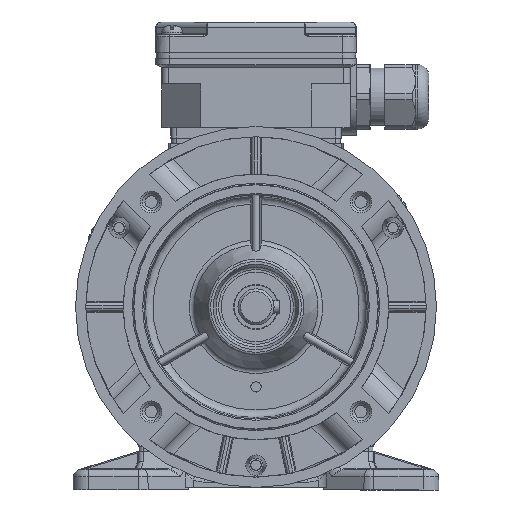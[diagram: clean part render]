
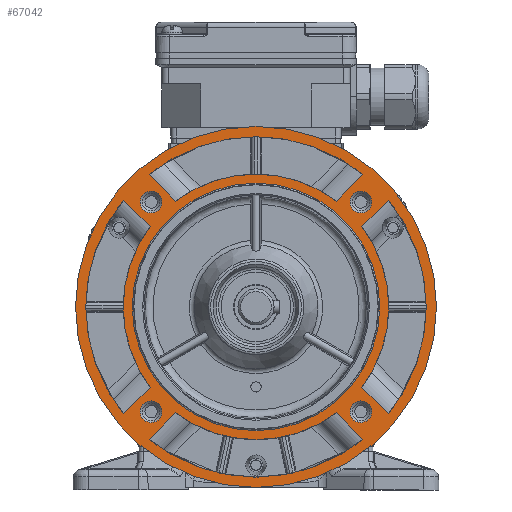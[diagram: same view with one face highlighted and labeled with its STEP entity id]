
A CAD part, front view. The second image highlights one B-rep face of the part: STEP entity #67042.
In plain terms, the highlighted planar face has unit normal (0, -1, 0).
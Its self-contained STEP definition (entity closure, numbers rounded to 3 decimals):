
#2346=LINE('',#101874,#5427);
#2347=LINE('',#101884,#5428);
#2348=LINE('',#101900,#5429);
#2349=LINE('',#101916,#5430);
#2350=LINE('',#101938,#5431);
#2351=LINE('',#101948,#5432);
#2352=LINE('',#101956,#5433);
#2353=LINE('',#101978,#5434);
#5427=VECTOR('',#80621,1000.);
#5428=VECTOR('',#80628,1000.);
#5429=VECTOR('',#80635,1000.);
#5430=VECTOR('',#80642,1000.);
#5431=VECTOR('',#80649,1000.);
#5432=VECTOR('',#80656,1000.);
#5433=VECTOR('',#80659,1000.);
#5434=VECTOR('',#80666,1000.);
#18819=ORIENTED_EDGE('',*,*,#28680,.T.);
#18820=ORIENTED_EDGE('',*,*,#28679,.T.);
#18821=ORIENTED_EDGE('',*,*,#28678,.T.);
#18822=ORIENTED_EDGE('',*,*,#28677,.T.);
#18823=ORIENTED_EDGE('',*,*,#28676,.F.);
#18824=ORIENTED_EDGE('',*,*,#28675,.F.);
#18825=ORIENTED_EDGE('',*,*,#28672,.T.);
#18826=ORIENTED_EDGE('',*,*,#28670,.T.);
#18827=ORIENTED_EDGE('',*,*,#28668,.T.);
#18828=ORIENTED_EDGE('',*,*,#28666,.F.);
#18829=ORIENTED_EDGE('',*,*,#28665,.F.);
#18830=ORIENTED_EDGE('',*,*,#28662,.T.);
#18831=ORIENTED_EDGE('',*,*,#28660,.T.);
#18832=ORIENTED_EDGE('',*,*,#28658,.F.);
#18833=ORIENTED_EDGE('',*,*,#28656,.F.);
#18834=ORIENTED_EDGE('',*,*,#28654,.T.);
#18835=ORIENTED_EDGE('',*,*,#28652,.T.);
#18836=ORIENTED_EDGE('',*,*,#28650,.F.);
#18837=ORIENTED_EDGE('',*,*,#28649,.F.);
#18838=ORIENTED_EDGE('',*,*,#28646,.T.);
#18839=ORIENTED_EDGE('',*,*,#28644,.T.);
#18840=ORIENTED_EDGE('',*,*,#28804,.T.);
#28644=EDGE_CURVE('',#34362,#34362,#37491,.F.);
#28646=EDGE_CURVE('',#34364,#34363,#37492,.T.);
#28649=EDGE_CURVE('',#34364,#34365,#2346,.T.);
#28650=EDGE_CURVE('',#34365,#34366,#37493,.T.);
#28652=EDGE_CURVE('',#34363,#34366,#2347,.T.);
#28654=EDGE_CURVE('',#34368,#34367,#37494,.T.);
#28656=EDGE_CURVE('',#34368,#34369,#2348,.T.);
#28658=EDGE_CURVE('',#34369,#34370,#37495,.T.);
#28660=EDGE_CURVE('',#34367,#34370,#2349,.T.);
#28662=EDGE_CURVE('',#34372,#34371,#37496,.T.);
#28665=EDGE_CURVE('',#34372,#34373,#2350,.T.);
#28666=EDGE_CURVE('',#34373,#34374,#37497,.T.);
#28668=EDGE_CURVE('',#34371,#34374,#2351,.T.);
#28670=EDGE_CURVE('',#34376,#34375,#2352,.T.);
#28672=EDGE_CURVE('',#34377,#34376,#37498,.T.);
#28675=EDGE_CURVE('',#34377,#34378,#2353,.T.);
#28676=EDGE_CURVE('',#34378,#34375,#37499,.T.);
#28677=EDGE_CURVE('',#34379,#34379,#37500,.F.);
#28678=EDGE_CURVE('',#34380,#34380,#37501,.F.);
#28679=EDGE_CURVE('',#34381,#34381,#37502,.F.);
#28680=EDGE_CURVE('',#34382,#34382,#37503,.F.);
#28804=EDGE_CURVE('',#34454,#34454,#37549,.T.);
#34362=VERTEX_POINT('',#101852);
#34363=VERTEX_POINT('',#101859);
#34364=VERTEX_POINT('',#101861);
#34365=VERTEX_POINT('',#101873);
#34366=VERTEX_POINT('',#101877);
#34367=VERTEX_POINT('',#101891);
#34368=VERTEX_POINT('',#101893);
#34369=VERTEX_POINT('',#101901);
#34370=VERTEX_POINT('',#101909);
#34371=VERTEX_POINT('',#101923);
#34372=VERTEX_POINT('',#101925);
#34373=VERTEX_POINT('',#101937);
#34374=VERTEX_POINT('',#101941);
#34375=VERTEX_POINT('',#101955);
#34376=VERTEX_POINT('',#101957);
#34377=VERTEX_POINT('',#101965);
#34378=VERTEX_POINT('',#101977);
#34379=VERTEX_POINT('',#101983);
#34380=VERTEX_POINT('',#101986);
#34381=VERTEX_POINT('',#101989);
#34382=VERTEX_POINT('',#101992);
#34454=VERTEX_POINT('',#102661);
#37491=CIRCLE('',#71013,48.);
#37492=CIRCLE('',#71015,51.5);
#37493=CIRCLE('',#71018,66.);
#37494=CIRCLE('',#71021,51.5);
#37495=CIRCLE('',#71024,66.);
#37496=CIRCLE('',#71027,51.5);
#37497=CIRCLE('',#71030,66.);
#37498=CIRCLE('',#71034,51.5);
#37499=CIRCLE('',#71037,66.);
#37500=CIRCLE('',#71039,4.2);
#37501=CIRCLE('',#71041,4.2);
#37502=CIRCLE('',#71043,4.2);
#37503=CIRCLE('',#71045,4.2);
#37549=CIRCLE('',#71144,70.);
#40288=EDGE_LOOP('',(#18819));
#40289=EDGE_LOOP('',(#18820));
#40290=EDGE_LOOP('',(#18821));
#40291=EDGE_LOOP('',(#18822));
#40292=EDGE_LOOP('',(#18823,#18824,#18825,#18826));
#40293=EDGE_LOOP('',(#18827,#18828,#18829,#18830));
#40294=EDGE_LOOP('',(#18831,#18832,#18833,#18834));
#40295=EDGE_LOOP('',(#18835,#18836,#18837,#18838));
#40296=EDGE_LOOP('',(#18839));
#40297=EDGE_LOOP('',(#18840));
#43518=FACE_BOUND('',#40288,.T.);
#43519=FACE_BOUND('',#40289,.T.);
#43520=FACE_BOUND('',#40290,.T.);
#43521=FACE_BOUND('',#40291,.T.);
#43522=FACE_BOUND('',#40292,.T.);
#43523=FACE_BOUND('',#40293,.T.);
#43524=FACE_BOUND('',#40294,.T.);
#43525=FACE_BOUND('',#40295,.T.);
#43526=FACE_BOUND('',#40296,.T.);
#43527=FACE_BOUND('',#40297,.T.);
#45373=PLANE('',#71143);
#67042=ADVANCED_FACE('',(#43518,#43519,#43520,#43521,#43522,#43523,#43524,
#43525,#43526,#43527),#45373,.T.);
#71013=AXIS2_PLACEMENT_3D('',#101851,#80613,#80614);
#71015=AXIS2_PLACEMENT_3D('',#101860,#80617,#80618);
#71018=AXIS2_PLACEMENT_3D('',#101876,#80624,#80625);
#71021=AXIS2_PLACEMENT_3D('',#101892,#80631,#80632);
#71024=AXIS2_PLACEMENT_3D('',#101908,#80638,#80639);
#71027=AXIS2_PLACEMENT_3D('',#101924,#80645,#80646);
#71030=AXIS2_PLACEMENT_3D('',#101940,#80652,#80653);
#71034=AXIS2_PLACEMENT_3D('',#101964,#80662,#80663);
#71037=AXIS2_PLACEMENT_3D('',#101980,#80669,#80670);
#71039=AXIS2_PLACEMENT_3D('',#101982,#80673,#80674);
#71041=AXIS2_PLACEMENT_3D('',#101985,#80677,#80678);
#71043=AXIS2_PLACEMENT_3D('',#101988,#80681,#80682);
#71045=AXIS2_PLACEMENT_3D('',#101991,#80685,#80686);
#71143=AXIS2_PLACEMENT_3D('',#102659,#80901,#80902);
#71144=AXIS2_PLACEMENT_3D('',#102660,#80903,#80904);
#80613=DIRECTION('',(0.,-1.,0.));
#80614=DIRECTION('',(0.,0.,1.));
#80617=DIRECTION('',(0.,-1.,0.));
#80618=DIRECTION('',(0.,0.,1.));
#80621=DIRECTION('',(0.707,0.,0.707));
#80624=DIRECTION('',(0.,-1.,0.));
#80625=DIRECTION('',(0.,0.,1.));
#80628=DIRECTION('',(-0.707,0.,0.707));
#80631=DIRECTION('',(0.,-1.,0.));
#80632=DIRECTION('',(0.,0.,1.));
#80635=DIRECTION('',(-0.707,0.,0.707));
#80638=DIRECTION('',(0.,-1.,0.));
#80639=DIRECTION('',(0.,0.,1.));
#80642=DIRECTION('',(-0.707,0.,-0.707));
#80645=DIRECTION('',(0.,-1.,0.));
#80646=DIRECTION('',(0.,0.,1.));
#80649=DIRECTION('',(-0.707,0.,-0.707));
#80652=DIRECTION('',(0.,-1.,0.));
#80653=DIRECTION('',(0.,0.,1.));
#80656=DIRECTION('',(0.707,0.,-0.707));
#80659=DIRECTION('',(0.707,0.,0.707));
#80662=DIRECTION('',(0.,-1.,0.));
#80663=DIRECTION('',(0.,0.,1.));
#80666=DIRECTION('',(0.707,0.,-0.707));
#80669=DIRECTION('',(0.,-1.,0.));
#80670=DIRECTION('',(0.,0.,1.));
#80673=DIRECTION('',(0.,-1.,0.));
#80674=DIRECTION('',(0.,0.,1.));
#80677=DIRECTION('',(0.,-1.,0.));
#80678=DIRECTION('',(0.,0.,1.));
#80681=DIRECTION('',(0.,-1.,0.));
#80682=DIRECTION('',(0.,0.,1.));
#80685=DIRECTION('',(0.,-1.,0.));
#80686=DIRECTION('',(0.,0.,1.));
#80901=DIRECTION('',(0.,-1.,0.));
#80902=DIRECTION('',(0.,0.,1.));
#80903=DIRECTION('',(0.,-1.,0.));
#80904=DIRECTION('',(0.,0.,1.));
#101851=CARTESIAN_POINT('',(0.,-90.,0.));
#101852=CARTESIAN_POINT('',(0.,-90.,48.));
#101859=CARTESIAN_POINT('',(-31.128,-90.,41.028));
#101860=CARTESIAN_POINT('',(0.,-90.,0.));
#101861=CARTESIAN_POINT('',(31.128,-90.,41.028));
#101873=CARTESIAN_POINT('',(41.456,-90.,51.356));
#101874=CARTESIAN_POINT('',(29.217,-90.,39.116));
#101876=CARTESIAN_POINT('',(0.,-90.,0.));
#101877=CARTESIAN_POINT('',(-41.456,-90.,51.356));
#101884=CARTESIAN_POINT('',(-29.217,-90.,39.116));
#101891=CARTESIAN_POINT('',(-41.028,-90.,-31.128));
#101892=CARTESIAN_POINT('',(0.,-90.,0.));
#101893=CARTESIAN_POINT('',(-41.028,-90.,31.128));
#101900=CARTESIAN_POINT('',(-39.116,-90.,29.217));
#101901=CARTESIAN_POINT('',(-51.356,-90.,41.456));
#101908=CARTESIAN_POINT('',(0.,-90.,0.));
#101909=CARTESIAN_POINT('',(-51.356,-90.,-41.456));
#101916=CARTESIAN_POINT('',(-39.116,-90.,-29.217));
#101923=CARTESIAN_POINT('',(31.128,-90.,-41.028));
#101924=CARTESIAN_POINT('',(0.,-90.,0.));
#101925=CARTESIAN_POINT('',(-31.128,-90.,-41.028));
#101937=CARTESIAN_POINT('',(-41.456,-90.,-51.356));
#101938=CARTESIAN_POINT('',(-29.217,-90.,-39.116));
#101940=CARTESIAN_POINT('',(0.,-90.,0.));
#101941=CARTESIAN_POINT('',(41.456,-90.,-51.356));
#101948=CARTESIAN_POINT('',(29.217,-90.,-39.116));
#101955=CARTESIAN_POINT('',(51.356,-90.,41.456));
#101956=CARTESIAN_POINT('',(39.116,-90.,29.217));
#101957=CARTESIAN_POINT('',(41.028,-90.,31.128));
#101964=CARTESIAN_POINT('',(0.,-90.,0.));
#101965=CARTESIAN_POINT('',(41.028,-90.,-31.128));
#101977=CARTESIAN_POINT('',(51.356,-90.,-41.456));
#101978=CARTESIAN_POINT('',(39.116,-90.,-29.217));
#101980=CARTESIAN_POINT('',(0.,-90.,0.));
#101982=CARTESIAN_POINT('',(-40.659,-90.,40.659));
#101983=CARTESIAN_POINT('',(-40.659,-90.,44.859));
#101985=CARTESIAN_POINT('',(40.659,-90.,40.659));
#101986=CARTESIAN_POINT('',(40.659,-90.,44.859));
#101988=CARTESIAN_POINT('',(40.659,-90.,-40.659));
#101989=CARTESIAN_POINT('',(40.659,-90.,-36.459));
#101991=CARTESIAN_POINT('',(-40.659,-90.,-40.659));
#101992=CARTESIAN_POINT('',(-40.659,-90.,-36.459));
#102659=CARTESIAN_POINT('',(0.,-90.,47.5));
#102660=CARTESIAN_POINT('',(0.,-90.,0.));
#102661=CARTESIAN_POINT('',(0.,-90.,70.));
